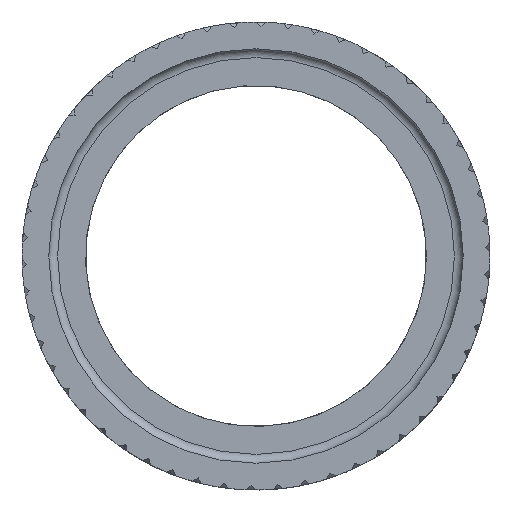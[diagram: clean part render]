
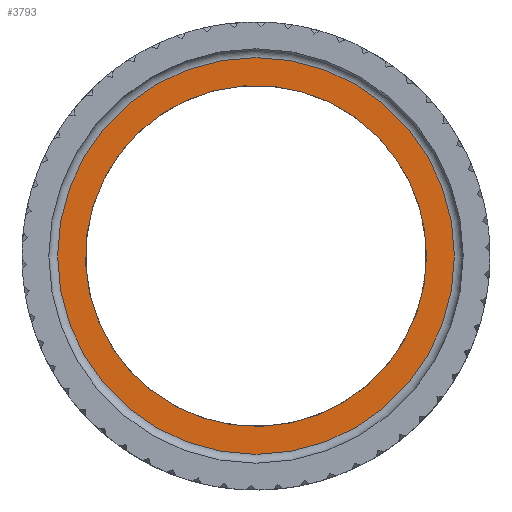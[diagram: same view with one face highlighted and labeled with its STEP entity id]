
A CAD part, top view. The second image highlights one B-rep face of the part: STEP entity #3793.
In plain terms, the highlighted planar face has unit normal (0, 0, 1).
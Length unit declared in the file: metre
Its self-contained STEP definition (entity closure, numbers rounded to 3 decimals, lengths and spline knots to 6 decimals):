
#425=PLANE('',#4034);
#492=CIRCLE('',#4035,0.03375);
#493=CIRCLE('',#4036,0.029);
#651=ORIENTED_EDGE('',*,*,#1951,.T.);
#652=ORIENTED_EDGE('',*,*,#1952,.T.);
#1951=EDGE_CURVE('',#2601,#2601,#492,.F.);
#1952=EDGE_CURVE('',#2602,#2602,#493,.T.);
#2601=VERTEX_POINT('',#4887);
#2602=VERTEX_POINT('',#4889);
#3320=EDGE_LOOP('',(#651));
#3321=EDGE_LOOP('',(#652));
#3556=FACE_BOUND('',#3320,.T.);
#3557=FACE_BOUND('',#3321,.T.);
#3793=ADVANCED_FACE('',(#3556,#3557),#425,.F.);
#4034=AXIS2_PLACEMENT_3D('',#4885,#4231,#4232);
#4035=AXIS2_PLACEMENT_3D('',#4886,#4233,#4234);
#4036=AXIS2_PLACEMENT_3D('',#4888,#4235,#4236);
#4231=DIRECTION('',(0.,0.,-1.));
#4232=DIRECTION('',(0.819,0.574,0.));
#4233=DIRECTION('',(0.,0.,-1.));
#4234=DIRECTION('',(1.,0.,0.));
#4235=DIRECTION('',(0.,0.,-1.));
#4236=DIRECTION('',(1.,0.,0.));
#4885=CARTESIAN_POINT('',(0.,0.,0.0718));
#4886=CARTESIAN_POINT('',(0.,0.,0.0718));
#4887=CARTESIAN_POINT('',(0.03375,0.,0.0718));
#4888=CARTESIAN_POINT('',(0.,0.,0.0718));
#4889=CARTESIAN_POINT('',(0.029,0.,0.0718));
